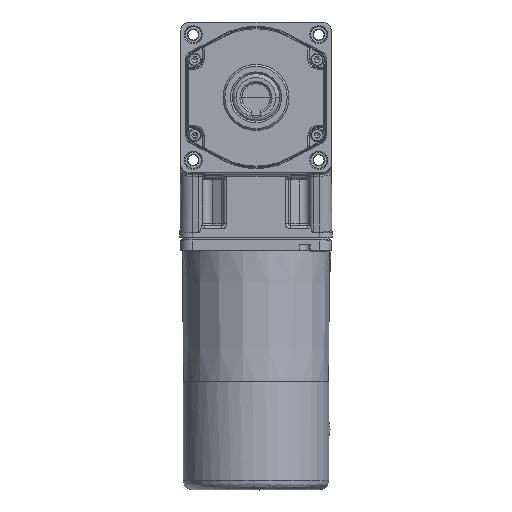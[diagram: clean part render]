
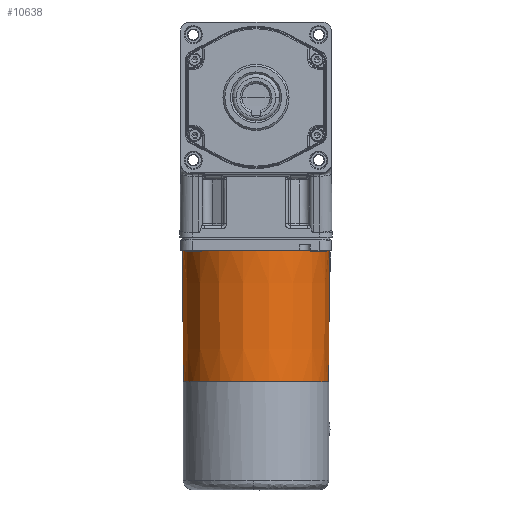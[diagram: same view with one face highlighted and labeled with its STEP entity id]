
A CAD part, top view. The second image highlights one B-rep face of the part: STEP entity #10638.
In plain terms, the highlighted conical face has half-angle 0.5 degrees and reference radius 39 mm.
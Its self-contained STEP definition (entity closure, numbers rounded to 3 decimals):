
#167 = EDGE_LOOP ( 'NONE', ( #2946, #50866, #7017, #40930 ) ) ;
#371 = LINE ( 'NONE', #34580, #60763 ) ;
#2946 = ORIENTED_EDGE ( 'NONE', *, *, #49132, .T. ) ;
#4885 = DIRECTION ( 'NONE',  ( 0., 0., -1. ) ) ;
#6235 = CARTESIAN_POINT ( 'NONE',  ( 0., 0., 39. ) ) ;
#7017 = ORIENTED_EDGE ( 'NONE', *, *, #51946, .T. ) ;
#9189 = DIRECTION ( 'NONE',  ( 0., 1., 0. ) ) ;
#10638 = ADVANCED_FACE ( 'NONE', ( #12422 ), #15019, .T. ) ;
#12422 = FACE_OUTER_BOUND ( 'NONE', #167, .T. ) ;
#13054 = AXIS2_PLACEMENT_3D ( 'NONE', #54016, #25750, #14364 ) ;
#14364 = DIRECTION ( 'NONE',  ( 0., 0., -1. ) ) ;
#14638 = CARTESIAN_POINT ( 'NONE',  ( 0., 0., 39. ) ) ;
#15019 = CONICAL_SURFACE ( 'NONE', #13054, 39., 0.009 ) ;
#18710 = VECTOR ( 'NONE', #20338, 1000. ) ;
#20338 = DIRECTION ( 'NONE',  ( 0., -1., 0.009 ) ) ;
#22868 = AXIS2_PLACEMENT_3D ( 'NONE', #43175, #9189, #48878 ) ;
#23159 = CIRCLE ( 'NONE', #57365, 38.393 ) ;
#25750 = DIRECTION ( 'NONE',  ( 0., -1., 0. ) ) ;
#29101 = EDGE_CURVE ( 'NONE', #51260, #67810, #371, .T. ) ;
#32498 = CARTESIAN_POINT ( 'NONE',  ( 0., 69.5, 38.393 ) ) ;
#33030 = VERTEX_POINT ( 'NONE', #6235 ) ;
#34580 = CARTESIAN_POINT ( 'NONE',  ( 0., 0., -39. ) ) ;
#38867 = DIRECTION ( 'NONE',  ( 0., -1., 0. ) ) ;
#40229 = CIRCLE ( 'NONE', #22868, 39. ) ;
#40930 = ORIENTED_EDGE ( 'NONE', *, *, #29101, .F. ) ;
#42029 = CARTESIAN_POINT ( 'NONE',  ( 0., 69.5, -38.393 ) ) ;
#43175 = CARTESIAN_POINT ( 'NONE',  ( 0., 0., 0. ) ) ;
#48878 = DIRECTION ( 'NONE',  ( 0., 0., -1. ) ) ;
#49132 = EDGE_CURVE ( 'NONE', #51260, #51448, #23159, .T. ) ;
#50866 = ORIENTED_EDGE ( 'NONE', *, *, #54320, .T. ) ;
#51260 = VERTEX_POINT ( 'NONE', #42029 ) ;
#51448 = VERTEX_POINT ( 'NONE', #32498 ) ;
#51946 = EDGE_CURVE ( 'NONE', #33030, #67810, #40229, .T. ) ;
#54016 = CARTESIAN_POINT ( 'NONE',  ( 0., 0., 0. ) ) ;
#54320 = EDGE_CURVE ( 'NONE', #51448, #33030, #70815, .T. ) ;
#57050 = CARTESIAN_POINT ( 'NONE',  ( 0., 0., -39. ) ) ;
#57365 = AXIS2_PLACEMENT_3D ( 'NONE', #72875, #38867, #4885 ) ;
#60763 = VECTOR ( 'NONE', #62888, 1000. ) ;
#62888 = DIRECTION ( 'NONE',  ( 0., -1., -0.009 ) ) ;
#67810 = VERTEX_POINT ( 'NONE', #57050 ) ;
#70815 = LINE ( 'NONE', #14638, #18710 ) ;
#72875 = CARTESIAN_POINT ( 'NONE',  ( 0., 69.5, 0. ) ) ;
